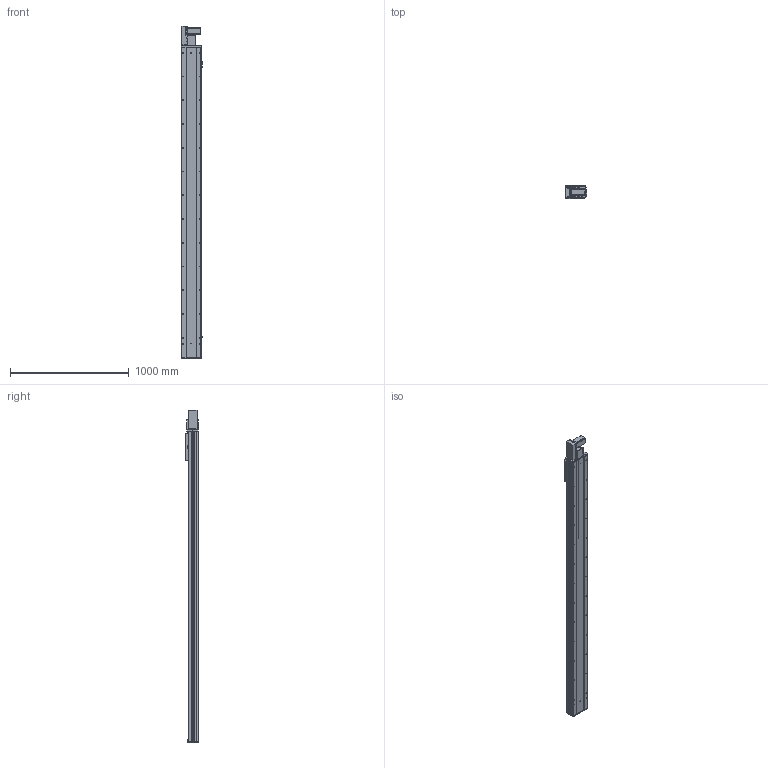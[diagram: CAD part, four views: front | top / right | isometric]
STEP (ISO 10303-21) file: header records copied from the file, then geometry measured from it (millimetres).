
FILE_DESCRIPTION (( 'STEP AP203' ), '1' );
FILE_NAME ('Y170CB-D105-S2300-BL-P400W.STEP', '2020-02-20T01:43:09', ( '微软用户' ), ( '微软中国' ), 'SwSTEP 2.0', 'SolidWorks 2017', '' );
FILE_SCHEMA (( 'CONFIG_CONTROL_DESIGN' ));
Length unit declared in the file: millimetre
Products named in the file (18): 70B喘謫眊----; 70CB-耜裔啣-; Y1埴倛裔; 70C--詩湍揤踡え-; B-源倛裔啣; Y170CB-D105-S2300-BL-P400W; 70CB--耜裔; 17B-耜蚾蟀諉啣----; 70C-雄赽釱-奻-; 0B-萇儂楊擘啣; 0C--雄赽釱俋欶-170; san松下电机400不带刹车----; 70CB-詩湍--; Y70俋欶BR----; Y100-135俋离換覜ん--; 70CB-掛极-; Y170CB-陔俋离換覜結え---; --70CB --喘謫眊楊擘啣-
Assembly tree (21 placements, depth 2):
  Y170CB-D105-S2300-BL-P400W
    B-源倛裔啣
    17B-耜蚾蟀諉啣----
    0B-萇儂楊擘啣
    san松下电机400不带刹车----
    Y70俋欶BR----
    70CB-掛极-
    --70CB --喘謫眊楊擘啣-
    70CB-耜裔啣-  x2
    70C--詩湍揤踡え-  x2
    70CB--耜裔
    70C-雄赽釱-奻-
    0C--雄赽釱俋欶-170
    70CB-詩湍--
    Y100-135俋离換覜ん--  x3
    Y170CB-陔俋离換覜結え---
    70B喘謫眊----
    Y1埴倛裔
Bounding box: 183.5 x 107 x 2797 mm (x, y, z)
Volume: 11655525.4 mm3; surface area: 4205114.4 mm2
Topology: 21 solids, 21 shells, 1063 faces, 2861 edges, 1898 vertices
Faces by surface type: cylinder 575, plane 464, cone 24
Entity records: 34072 total; most frequent: CARTESIAN_POINT 6276, DIRECTION 5542, ORIENTED_EDGE 5204, EDGE_CURVE 2602, AXIS2_PLACEMENT_3D 2044, VERTEX_POINT 1728, VECTOR 1454, LINE 1454
